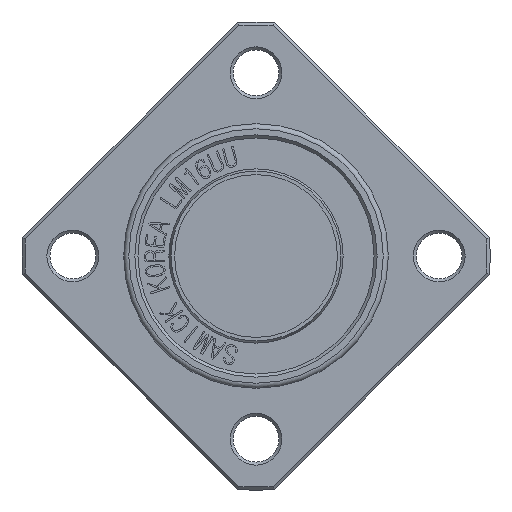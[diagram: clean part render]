
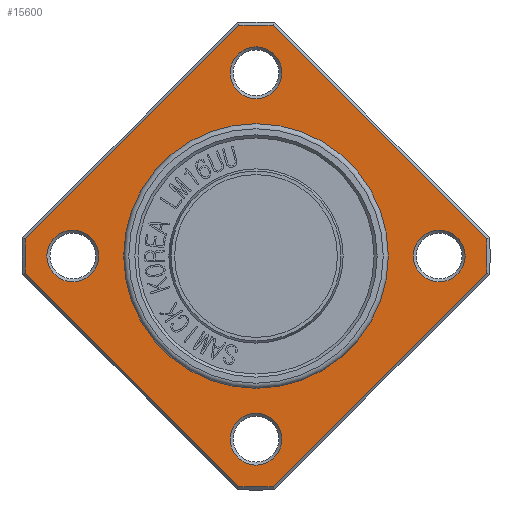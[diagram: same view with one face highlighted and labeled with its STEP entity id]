
A CAD part, front view. The second image highlights one B-rep face of the part: STEP entity #15600.
In plain terms, the highlighted planar face has unit normal (0, -1, 0).
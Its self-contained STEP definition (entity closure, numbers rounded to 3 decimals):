
#2215=FACE_BOUND('',#3394,.T.);
#2216=FACE_BOUND('',#3395,.T.);
#2217=FACE_BOUND('',#3396,.T.);
#2218=FACE_BOUND('',#3397,.T.);
#2219=FACE_BOUND('',#3398,.T.);
#2275=PLANE('',#16514);
#2522=FACE_OUTER_BOUND('',#3393,.T.);
#3393=EDGE_LOOP('',(#10784,#10785,#10786,#10787,#10788,#10789,#10790,#10791));
#3394=EDGE_LOOP('',(#10792));
#3395=EDGE_LOOP('',(#10793));
#3396=EDGE_LOOP('',(#10794,#10795));
#3397=EDGE_LOOP('',(#10796));
#3398=EDGE_LOOP('',(#10797));
#4321=LINE('',#18811,#5463);
#4322=LINE('',#18815,#5464);
#4323=LINE('',#18819,#5465);
#4324=LINE('',#18823,#5466);
#5463=VECTOR('',#16937,10.);
#5464=VECTOR('',#16940,10.);
#5465=VECTOR('',#16943,10.);
#5466=VECTOR('',#16946,10.);
#6618=CIRCLE('',#16512,2.55);
#6620=CIRCLE('',#16515,22.7);
#6621=CIRCLE('',#16516,22.7);
#6622=CIRCLE('',#16517,22.7);
#6623=CIRCLE('',#16518,22.7);
#6624=CIRCLE('',#16519,2.55);
#6625=CIRCLE('',#16520,2.55);
#6626=CIRCLE('',#16521,13.);
#6627=CIRCLE('',#16522,13.);
#6628=CIRCLE('',#16523,2.55);
#6712=VERTEX_POINT('',#18803);
#6714=VERTEX_POINT('',#18809);
#6715=VERTEX_POINT('',#18810);
#6716=VERTEX_POINT('',#18812);
#6717=VERTEX_POINT('',#18814);
#6718=VERTEX_POINT('',#18816);
#6719=VERTEX_POINT('',#18818);
#6720=VERTEX_POINT('',#18820);
#6721=VERTEX_POINT('',#18822);
#6722=VERTEX_POINT('',#18825);
#6723=VERTEX_POINT('',#18827);
#6724=VERTEX_POINT('',#18829);
#6725=VERTEX_POINT('',#18830);
#6726=VERTEX_POINT('',#18833);
#8336=EDGE_CURVE('',#6712,#6712,#6618,.T.);
#8339=EDGE_CURVE('',#6714,#6715,#4321,.T.);
#8340=EDGE_CURVE('',#6714,#6716,#6620,.T.);
#8341=EDGE_CURVE('',#6717,#6716,#4322,.T.);
#8342=EDGE_CURVE('',#6717,#6718,#6621,.T.);
#8343=EDGE_CURVE('',#6719,#6718,#4323,.T.);
#8344=EDGE_CURVE('',#6719,#6720,#6622,.T.);
#8345=EDGE_CURVE('',#6721,#6720,#4324,.T.);
#8346=EDGE_CURVE('',#6721,#6715,#6623,.T.);
#8347=EDGE_CURVE('',#6722,#6722,#6624,.T.);
#8348=EDGE_CURVE('',#6723,#6723,#6625,.T.);
#8349=EDGE_CURVE('',#6724,#6725,#6626,.T.);
#8350=EDGE_CURVE('',#6725,#6724,#6627,.T.);
#8351=EDGE_CURVE('',#6726,#6726,#6628,.T.);
#10784=ORIENTED_EDGE('',*,*,#8339,.F.);
#10785=ORIENTED_EDGE('',*,*,#8340,.T.);
#10786=ORIENTED_EDGE('',*,*,#8341,.F.);
#10787=ORIENTED_EDGE('',*,*,#8342,.T.);
#10788=ORIENTED_EDGE('',*,*,#8343,.F.);
#10789=ORIENTED_EDGE('',*,*,#8344,.T.);
#10790=ORIENTED_EDGE('',*,*,#8345,.F.);
#10791=ORIENTED_EDGE('',*,*,#8346,.T.);
#10792=ORIENTED_EDGE('',*,*,#8347,.F.);
#10793=ORIENTED_EDGE('',*,*,#8348,.F.);
#10794=ORIENTED_EDGE('',*,*,#8349,.F.);
#10795=ORIENTED_EDGE('',*,*,#8350,.F.);
#10796=ORIENTED_EDGE('',*,*,#8351,.F.);
#10797=ORIENTED_EDGE('',*,*,#8336,.F.);
#15600=ADVANCED_FACE('',(#2522,#2215,#2216,#2217,#2218,#2219),#2275,.T.);
#16512=AXIS2_PLACEMENT_3D('',#18804,#16930,#16931);
#16514=AXIS2_PLACEMENT_3D('',#18808,#16935,#16936);
#16515=AXIS2_PLACEMENT_3D('',#18813,#16938,#16939);
#16516=AXIS2_PLACEMENT_3D('',#18817,#16941,#16942);
#16517=AXIS2_PLACEMENT_3D('',#18821,#16944,#16945);
#16518=AXIS2_PLACEMENT_3D('',#18824,#16947,#16948);
#16519=AXIS2_PLACEMENT_3D('',#18826,#16949,#16950);
#16520=AXIS2_PLACEMENT_3D('',#18828,#16951,#16952);
#16521=AXIS2_PLACEMENT_3D('',#18831,#16953,#16954);
#16522=AXIS2_PLACEMENT_3D('',#18832,#16955,#16956);
#16523=AXIS2_PLACEMENT_3D('',#18834,#16957,#16958);
#16930=DIRECTION('center_axis',(0.,-1.,0.));
#16931=DIRECTION('ref_axis',(0.,0.,-1.));
#16935=DIRECTION('center_axis',(0.,-1.,0.));
#16936=DIRECTION('ref_axis',(0.,0.,-1.));
#16937=DIRECTION('',(-0.707,0.,-0.707));
#16938=DIRECTION('center_axis',(0.,-1.,0.));
#16939=DIRECTION('ref_axis',(1.,0.,0.));
#16940=DIRECTION('',(0.707,0.,-0.707));
#16941=DIRECTION('center_axis',(0.,-1.,0.));
#16942=DIRECTION('ref_axis',(1.,0.,0.));
#16943=DIRECTION('',(0.707,0.,0.707));
#16944=DIRECTION('center_axis',(0.,-1.,0.));
#16945=DIRECTION('ref_axis',(1.,0.,0.));
#16946=DIRECTION('',(-0.707,0.,0.707));
#16947=DIRECTION('center_axis',(0.,-1.,0.));
#16948=DIRECTION('ref_axis',(1.,0.,0.));
#16949=DIRECTION('center_axis',(0.,-1.,0.));
#16950=DIRECTION('ref_axis',(1.,0.,0.));
#16951=DIRECTION('center_axis',(0.,-1.,0.));
#16952=DIRECTION('ref_axis',(0.,0.,
1.));
#16953=DIRECTION('center_axis',(0.,-1.,0.));
#16954=DIRECTION('ref_axis',(1.,0.,0.));
#16955=DIRECTION('center_axis',(0.,-1.,0.));
#16956=DIRECTION('ref_axis',(1.,0.,0.));
#16957=DIRECTION('center_axis',(0.,-1.,0.));
#16958=DIRECTION('ref_axis',(-1.,0.,0.));
#18803=CARTESIAN_POINT('',(0.,6.,-15.45));
#18804=CARTESIAN_POINT('Origin',(0.,6.,-18.));
#18808=CARTESIAN_POINT('Origin',(13.,6.,0.));
#18809=CARTESIAN_POINT('',(22.637,6.,-1.687));
#18810=CARTESIAN_POINT('',(1.687,6.,-22.637));
#18811=CARTESIAN_POINT('',(10.136,6.,-14.189));
#18812=CARTESIAN_POINT('',(22.637,6.,1.687));
#18813=CARTESIAN_POINT('Origin',(0.,6.,0.));
#18814=CARTESIAN_POINT('',(1.687,6.,22.637));
#18815=CARTESIAN_POINT('',(20.689,6.,3.636));
#18816=CARTESIAN_POINT('',(-1.687,6.,22.637));
#18817=CARTESIAN_POINT('Origin',(0.,6.,0.));
#18818=CARTESIAN_POINT('',(-22.637,6.,1.687));
#18819=CARTESIAN_POINT('',(-3.636,6.,20.689));
#18820=CARTESIAN_POINT('',(-22.637,6.,-1.687));
#18821=CARTESIAN_POINT('Origin',(0.,6.,0.));
#18822=CARTESIAN_POINT('',(-1.687,6.,-22.637));
#18823=CARTESIAN_POINT('',(-14.189,6.,-10.136));
#18824=CARTESIAN_POINT('Origin',(0.,6.,0.));
#18825=CARTESIAN_POINT('',(15.45,6.,0.));
#18826=CARTESIAN_POINT('Origin',(18.,6.,0.));
#18827=CARTESIAN_POINT('',(0.,6.,15.45));
#18828=CARTESIAN_POINT('Origin',(0.,6.,18.));
#18829=CARTESIAN_POINT('',(13.,6.,0.));
#18830=CARTESIAN_POINT('',(-13.,6.,0.));
#18831=CARTESIAN_POINT('Origin',(0.,6.,0.));
#18832=CARTESIAN_POINT('Origin',(0.,6.,0.));
#18833=CARTESIAN_POINT('',(-15.45,6.,0.));
#18834=CARTESIAN_POINT('Origin',(-18.,6.,0.));
